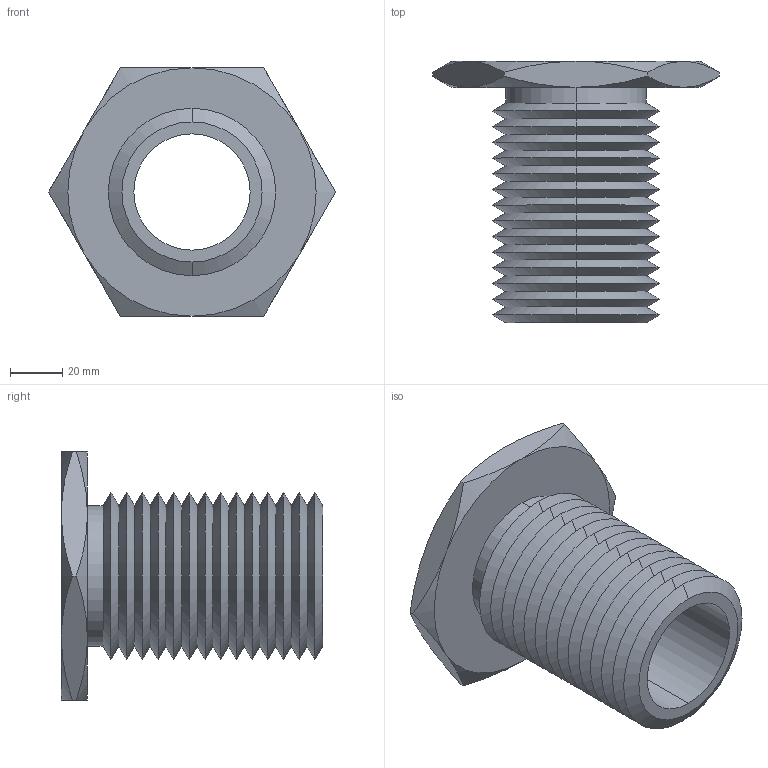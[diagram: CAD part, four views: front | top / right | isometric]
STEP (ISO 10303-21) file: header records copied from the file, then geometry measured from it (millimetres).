
FILE_DESCRIPTION (( 'STEP AP203' ), '1' );
FILE_NAME ('63302.W0064_1,75 UNC-5.step', '2013-12-08T11:29:04', ( 'User' ), ( '' ), 'SwSTEP 2.0', 'SolidWorks 2009', '' );
FILE_SCHEMA (( 'CONFIG_CONTROL_DESIGN' ));
Length unit declared in the file: millimetre
Products named in the file (1): 63302.W0064_1,75 UNC-5
Bounding box: 109.7 x 100 x 95 mm (x, y, z)
Volume: 161444.5 mm3; surface area: 60715.3 mm2
Topology: 1 solids, 1 shells, 83 faces, 170 edges, 90 vertices
Faces by surface type: cone 70, plane 9, cylinder 4
Entity records: 2371 total; most frequent: CARTESIAN_POINT 560, DIRECTION 392, ORIENTED_EDGE 340, EDGE_CURVE 170, AXIS2_PLACEMENT_3D 162, VERTEX_POINT 90, EDGE_LOOP 86, ADVANCED_FACE 83
